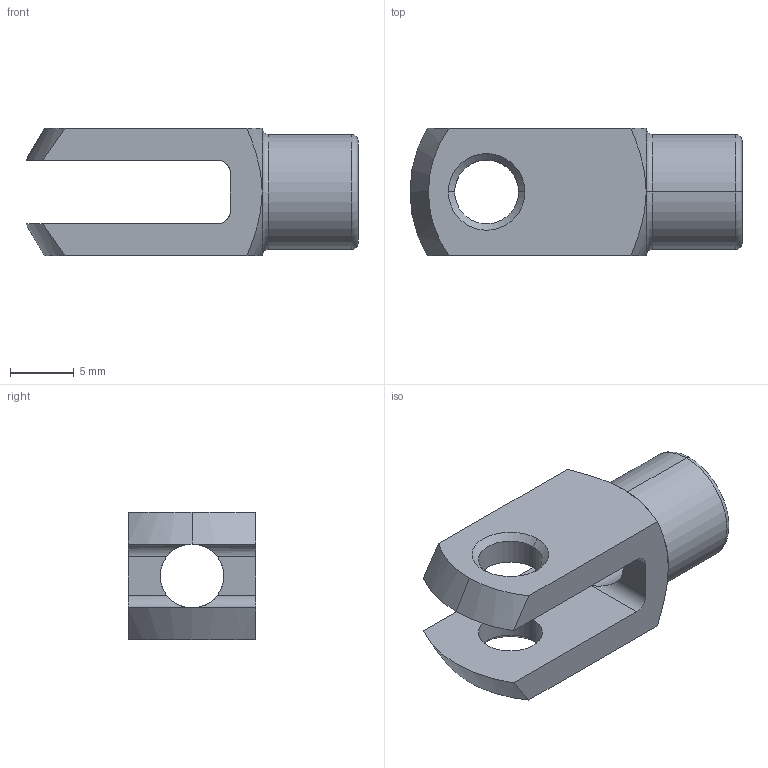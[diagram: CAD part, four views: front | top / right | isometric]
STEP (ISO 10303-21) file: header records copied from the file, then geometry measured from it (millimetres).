
FILE_DESCRIPTION (( 'STEP AP203' ), '1' );
FILE_NAME ('65636.W0051.step', '2014-01-17T13:10:45', ( 'User' ), ( '' ), 'SwSTEP 2.0', 'SolidWorks 2009', '' );
FILE_SCHEMA (( 'CONFIG_CONTROL_DESIGN' ));
Length unit declared in the file: millimetre
Products named in the file (1): 65636.W0051
Bounding box: 26 x 10 x 10 mm (x, y, z)
Volume: 1163.2 mm3; surface area: 1327.6 mm2
Topology: 1 solids, 1 shells, 38 faces, 91 edges, 54 vertices
Faces by surface type: cone 13, cylinder 12, plane 9, torus 4
Entity records: 1266 total; most frequent: CARTESIAN_POINT 296, DIRECTION 195, ORIENTED_EDGE 182, EDGE_CURVE 91, AXIS2_PLACEMENT_3D 81, VERTEX_POINT 54, EDGE_LOOP 43, CIRCLE 42
